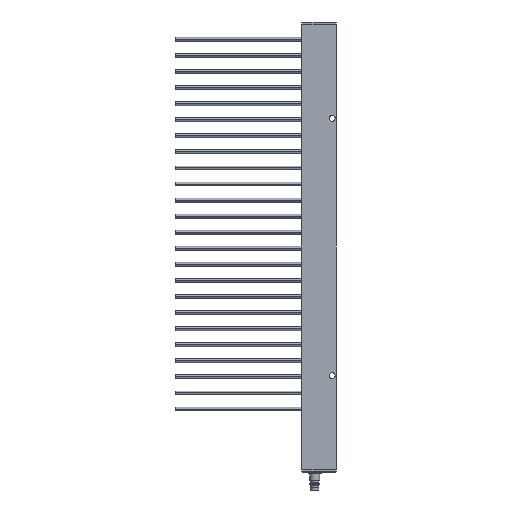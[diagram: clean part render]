
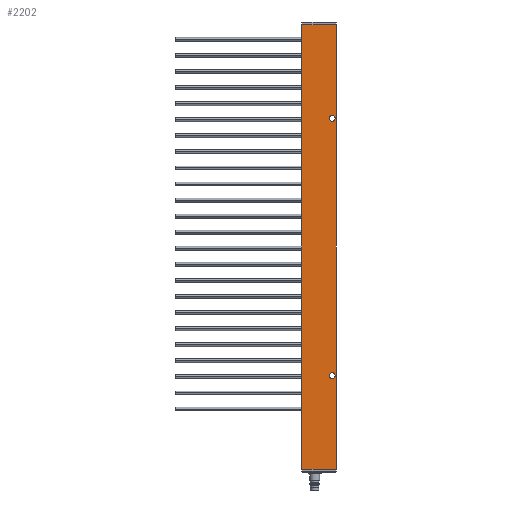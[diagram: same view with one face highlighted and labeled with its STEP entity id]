
A CAD part, left-side view. The second image highlights one B-rep face of the part: STEP entity #2202.
In plain terms, the highlighted planar face has unit normal (-1, 0, 0).
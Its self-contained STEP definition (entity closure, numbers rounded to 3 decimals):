
#68 = VERTEX_POINT ( 'NONE', #764 ) ;
#241 = EDGE_CURVE ( 'NONE', #5392, #5293, #4400, .T. ) ;
#250 = CARTESIAN_POINT ( 'NONE',  ( -41.784, 26.206, -402. ) ) ;
#257 = PLANE ( 'NONE',  #1001 ) ;
#279 = ORIENTED_EDGE ( 'NONE', *, *, #3944, .F. ) ;
#568 = CARTESIAN_POINT ( 'NONE',  ( -41.784, 2.506, -672.75 ) ) ;
#661 = EDGE_CURVE ( 'NONE', #4413, #68, #3827, .T. ) ;
#764 = CARTESIAN_POINT ( 'NONE',  ( -41.784, -0.794, -402. ) ) ;
#786 = DIRECTION ( 'NONE',  ( 0., 0., -1. ) ) ;
#808 = EDGE_CURVE ( 'NONE', #5079, #1919, #3738, .T. ) ;
#835 = CARTESIAN_POINT ( 'NONE',  ( -41.784, 2.506, -477.25 ) ) ;
#860 = LINE ( 'NONE', #5239, #3390 ) ;
#910 = FACE_OUTER_BOUND ( 'NONE', #5090, .T. ) ;
#1001 = AXIS2_PLACEMENT_3D ( 'NONE', #2287, #3803, #786 ) ;
#1046 = DIRECTION ( 'NONE',  ( 0., 0., 1. ) ) ;
#1212 = VECTOR ( 'NONE', #5893, 1000. ) ;
#1417 = ORIENTED_EDGE ( 'NONE', *, *, #4917, .T. ) ;
#1479 = ORIENTED_EDGE ( 'NONE', *, *, #661, .F. ) ;
#1567 = DIRECTION ( 'NONE',  ( -1., 0., 0. ) ) ;
#1919 = VERTEX_POINT ( 'NONE', #4607 ) ;
#1971 = CIRCLE ( 'NONE', #5874, 2.25 ) ;
#2202 = ADVANCED_FACE ( 'NONE', ( #3583, #4773, #910 ), #257, .F. ) ;
#2287 = CARTESIAN_POINT ( 'NONE',  ( -41.784, 4.906, -373.208 ) ) ;
#2400 = CARTESIAN_POINT ( 'NONE',  ( -41.784, 2.506, -675. ) ) ;
#2494 = CARTESIAN_POINT ( 'NONE',  ( -41.784, 26.206, -748. ) ) ;
#2516 = CARTESIAN_POINT ( 'NONE',  ( -41.784, 2.506, -677.25 ) ) ;
#2556 = CARTESIAN_POINT ( 'NONE',  ( -41.784, 2.506, -675. ) ) ;
#2731 = LINE ( 'NONE', #5399, #1212 ) ;
#2801 = CARTESIAN_POINT ( 'NONE',  ( -41.784, -0.794, -373.208 ) ) ;
#2831 = DIRECTION ( 'NONE',  ( 0., 0., -1. ) ) ;
#2910 = DIRECTION ( 'NONE',  ( 0., 0., 1. ) ) ;
#2951 = ORIENTED_EDGE ( 'NONE', *, *, #5224, .F. ) ;
#2975 = DIRECTION ( 'NONE',  ( -1., 0., 0. ) ) ;
#3047 = LINE ( 'NONE', #2801, #5277 ) ;
#3084 = AXIS2_PLACEMENT_3D ( 'NONE', #2400, #5960, #2910 ) ;
#3107 = AXIS2_PLACEMENT_3D ( 'NONE', #6464, #6425, #5876 ) ;
#3390 = VECTOR ( 'NONE', #6222, 1000. ) ;
#3583 = FACE_BOUND ( 'NONE', #4175, .T. ) ;
#3594 = VERTEX_POINT ( 'NONE', #2494 ) ;
#3738 = CIRCLE ( 'NONE', #3107, 2.25 ) ;
#3803 = DIRECTION ( 'NONE',  ( 1., 0., 0. ) ) ;
#3827 = LINE ( 'NONE', #6098, #4701 ) ;
#3944 = EDGE_CURVE ( 'NONE', #5293, #5392, #6354, .T. ) ;
#4089 = ORIENTED_EDGE ( 'NONE', *, *, #6524, .F. ) ;
#4175 = EDGE_LOOP ( 'NONE', ( #4244, #279 ) ) ;
#4244 = ORIENTED_EDGE ( 'NONE', *, *, #241, .F. ) ;
#4400 = CIRCLE ( 'NONE', #4456, 2.25 ) ;
#4413 = VERTEX_POINT ( 'NONE', #250 ) ;
#4435 = ORIENTED_EDGE ( 'NONE', *, *, #6556, .T. ) ;
#4456 = AXIS2_PLACEMENT_3D ( 'NONE', #2556, #1567, #1046 ) ;
#4607 = CARTESIAN_POINT ( 'NONE',  ( -41.784, 2.506, -472.75 ) ) ;
#4701 = VECTOR ( 'NONE', #5513, 1000. ) ;
#4773 = FACE_BOUND ( 'NONE', #4949, .T. ) ;
#4917 = EDGE_CURVE ( 'NONE', #4413, #3594, #860, .T. ) ;
#4949 = EDGE_LOOP ( 'NONE', ( #2951, #5868 ) ) ;
#5079 = VERTEX_POINT ( 'NONE', #835 ) ;
#5090 = EDGE_LOOP ( 'NONE', ( #1479, #1417, #4435, #4089 ) ) ;
#5224 = EDGE_CURVE ( 'NONE', #1919, #5079, #1971, .T. ) ;
#5239 = CARTESIAN_POINT ( 'NONE',  ( -41.784, 26.206, -373.208 ) ) ;
#5277 = VECTOR ( 'NONE', #2831, 1000. ) ;
#5293 = VERTEX_POINT ( 'NONE', #2516 ) ;
#5392 = VERTEX_POINT ( 'NONE', #568 ) ;
#5399 = CARTESIAN_POINT ( 'NONE',  ( -41.784, 4.906, -748. ) ) ;
#5513 = DIRECTION ( 'NONE',  ( 0., -1., 0. ) ) ;
#5793 = CARTESIAN_POINT ( 'NONE',  ( -41.784, -0.794, -748. ) ) ;
#5859 = VERTEX_POINT ( 'NONE', #5793 ) ;
#5868 = ORIENTED_EDGE ( 'NONE', *, *, #808, .F. ) ;
#5874 = AXIS2_PLACEMENT_3D ( 'NONE', #6018, #2975, #6515 ) ;
#5876 = DIRECTION ( 'NONE',  ( 0., 0., 1. ) ) ;
#5893 = DIRECTION ( 'NONE',  ( 0., -1., 0. ) ) ;
#5960 = DIRECTION ( 'NONE',  ( -1., 0., 0. ) ) ;
#6018 = CARTESIAN_POINT ( 'NONE',  ( -41.784, 2.506, -475. ) ) ;
#6098 = CARTESIAN_POINT ( 'NONE',  ( -41.784, 4.906, -402. ) ) ;
#6222 = DIRECTION ( 'NONE',  ( 0., 0., -1. ) ) ;
#6354 = CIRCLE ( 'NONE', #3084, 2.25 ) ;
#6425 = DIRECTION ( 'NONE',  ( -1., 0., 0. ) ) ;
#6464 = CARTESIAN_POINT ( 'NONE',  ( -41.784, 2.506, -475. ) ) ;
#6515 = DIRECTION ( 'NONE',  ( 0., 0., 1. ) ) ;
#6524 = EDGE_CURVE ( 'NONE', #68, #5859, #3047, .T. ) ;
#6556 = EDGE_CURVE ( 'NONE', #3594, #5859, #2731, .T. ) ;
